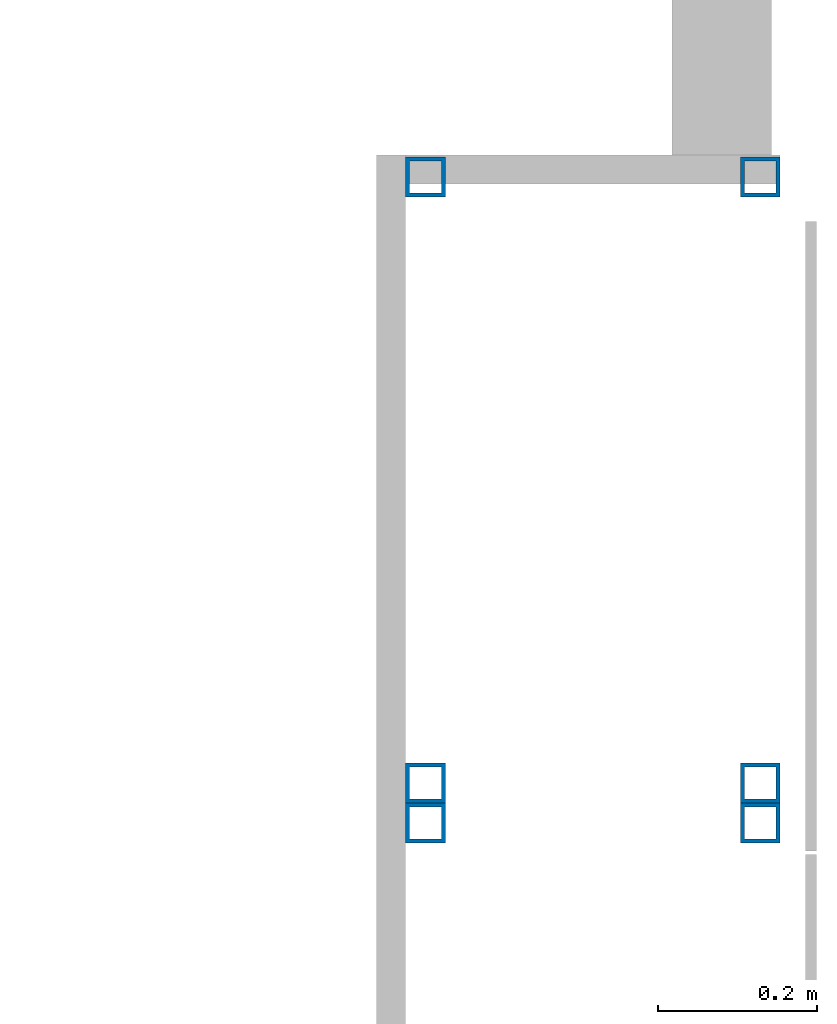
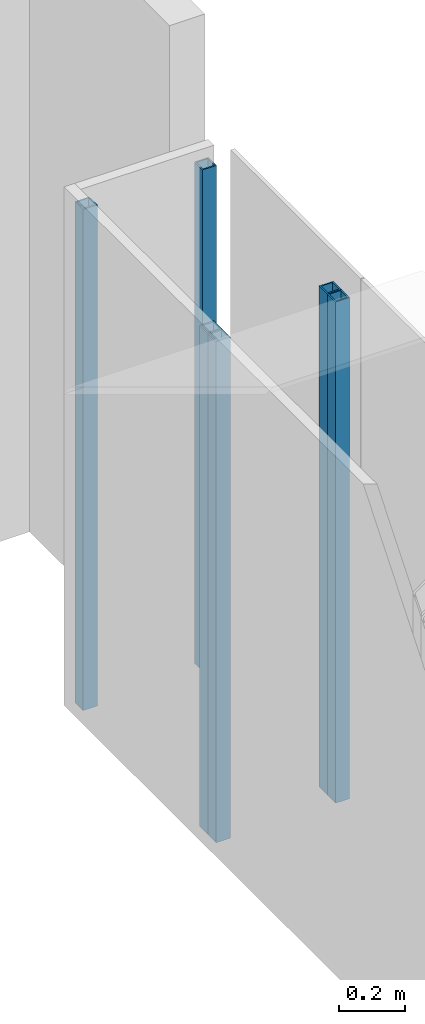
# One storey, part 6 of 11: 6 columns.
"""IFC2X3 building model written with IfcOpenShell, lengths in millimetres."""

import ifcopenshell
import ifcopenshell.guid

model = None  # the IFC model being written
_history = None  # IfcOwnerHistory: only IFC2X3 demands one
_inside = {}  # id of a spatial element -> (the spatial element, [elements in it])
_under = {}  # id of a project, library or spatial element -> (it, [spatial elements below it])
_declared = {}  # id of a project -> (the project, [libraries it declares])
_typed = {}  # id of a type object -> (the type object, [elements of that type])
_made_of = {}  # id of a material, layer set ... -> (it, [elements and type objects made of it])


def new_model(schema):
    """Start an empty IFC model of exactly this schema.

    Asked for "IFC4X3", IfcOpenShell would pick the latest addendum, in which some entities
    have other attributes; the version numbers below select the first issue.
    IFC2X3 requires an IfcOwnerHistory on every rooted entity: one is made here for all.
    """
    global model, _history
    if schema == "IFC4X3":
        model = ifcopenshell.file(schema_version=(4, 3, 0, 0))
    else:
        model = ifcopenshell.file(schema=schema)
    _inside.clear()
    _under.clear()
    _declared.clear()
    _typed.clear()
    _made_of.clear()
    _history = None
    if model.schema == "IFC2X3":
        org = make("IfcOrganization", Name="unknown")
        user = make(
            "IfcPersonAndOrganization",
            ThePerson=make("IfcPerson", FamilyName="unknown"),
            TheOrganization=org,
        )
        app = make(
            "IfcApplication",
            ApplicationDeveloper=org,
            Version="unknown",
            ApplicationFullName="unknown",
            ApplicationIdentifier="unknown",
        )
        _history = make(
            "IfcOwnerHistory",
            OwningUser=user,
            OwningApplication=app,
            ChangeAction="ADDED",
            CreationDate=0,
        )
    return model


def make(cls, **values):
    """One entity of the class cls with the attributes given. An attribute that is None is left unset."""
    return model.create_entity(
        cls, **{name: value for name, value in values.items() if value is not None}
    )


def entity(cls, *values):
    """Any entity or typed value of the class cls, its attributes in the order of the schema. None: left unset."""
    e = model.create_entity(cls)
    for i, value in enumerate(values):
        if value is not None:
            e[i] = value
    return e


def rooted(cls, **values):
    """An entity with a GlobalId (a new one), such as an element, a storey or a relation."""
    return make(cls, GlobalId=ifcopenshell.guid.new(), OwnerHistory=_history, **values)


def si_unit(unit_type, name, prefix=None):
    """IfcSIUnit, for example si_unit("LENGTHUNIT", "METRE", prefix="MILLI")."""
    return make("IfcSIUnit", UnitType=unit_type, Prefix=prefix, Name=name)


def converted_unit(unit_type, name, factor, base, dimensions=None, offset=None):
    """IfcConversionBasedUnit, such as the inch: factor (a typed value) times the base unit."""
    return make(
        "IfcConversionBasedUnit"
        if offset is None
        else "IfcConversionBasedUnitWithOffset",
        ConversionOffset=offset,
        Dimensions=None
        if dimensions is None
        else entity("IfcDimensionalExponents", *dimensions),
        UnitType=unit_type,
        Name=name,
        ConversionFactor=make(
            "IfcMeasureWithUnit", ValueComponent=factor, UnitComponent=base
        ),
    )


def derived_unit(unit_type, elements):
    """IfcDerivedUnit: a product of units, each with its exponent."""
    return make(
        "IfcDerivedUnit",
        Elements=[
            make("IfcDerivedUnitElement", Unit=unit, Exponent=power)
            for unit, power in elements
        ],
        UnitType=unit_type,
    )


def assignment(units):
    """IfcUnitAssignment: the units of a project."""
    return None if units is None else make("IfcUnitAssignment", Units=units)


def point(xyz):
    """IfcCartesianPoint."""
    return None if xyz is None else make("IfcCartesianPoint", Coordinates=xyz)


def direction(xyz):
    """IfcDirection."""
    return None if xyz is None else make("IfcDirection", DirectionRatios=xyz)


def frame(location, z_axis=None, x_axis=None):
    """IfcAxis2Placement3D, a coordinate frame: its origin and axes. An axis left out is left unset."""
    return make(
        "IfcAxis2Placement3D",
        Location=point(location),
        Axis=direction(z_axis),
        RefDirection=direction(x_axis),
    )


def origin():
    """The frame at (0, 0, 0) with its axes left unset."""
    return frame((0.0, 0.0, 0.0))


def origin_with_axes():
    """The frame at (0, 0, 0) with the z axis (0, 0, 1) and the x axis (1, 0, 0) written out."""
    return frame((0.0, 0.0, 0.0), z_axis=(0.0, 0.0, 1.0), x_axis=(1.0, 0.0, 0.0))


def place(relative_to, where):
    """IfcLocalPlacement: puts the frame where relative to a parent placement (None: the world)."""
    return make(
        "IfcLocalPlacement", PlacementRelTo=relative_to, RelativePlacement=where
    )


def context(
    kind, dimensions, precision=None, world=None, true_north=None, identifier=None
):
    """IfcGeometricRepresentationContext, for example the 3D "Model" context."""
    return make(
        "IfcGeometricRepresentationContext",
        ContextIdentifier=identifier,
        ContextType=kind,
        CoordinateSpaceDimension=dimensions,
        Precision=precision,
        WorldCoordinateSystem=world,
        TrueNorth=true_north,
    )


def subcontext(parent, identifier, kind, view, scale=None):
    """IfcGeometricRepresentationSubContext, for example "Body" below "Model"."""
    return make(
        "IfcGeometricRepresentationSubContext",
        ContextIdentifier=identifier,
        ContextType=kind,
        ParentContext=parent,
        TargetScale=scale,
        TargetView=view,
    )


def project(units=None, contexts=None):
    """IfcProject with its units and contexts."""
    return rooted(
        "IfcProject",
        Name="project",
        RepresentationContexts=contexts,
        UnitsInContext=assignment(units),
    )


def spatial(cls, under=None, at=None, **own):
    """A site, building, storey or space (cls), placed at a placement, below another one or the project."""
    s = rooted(cls, ObjectPlacement=at, **own)
    if under is not None:
        _under.setdefault(under.id(), (under, []))[1].append(s)
    return s


def polyline(points):
    """IfcPolyline through the points."""
    return make("IfcPolyline", Points=[point(p) for p in points])


def outline(outer, holes=None, kind="AREA"):
    """IfcArbitraryClosedProfileDef: a profile drawn as a closed curve; with holes, ...WithVoids."""
    if holes is None:
        return make("IfcArbitraryClosedProfileDef", ProfileType=kind, OuterCurve=outer)
    return make(
        "IfcArbitraryProfileDefWithVoids",
        ProfileType=kind,
        OuterCurve=outer,
        InnerCurves=holes,
    )


def extrude(swept, where, along, depth):
    """IfcExtrudedAreaSolid: the profile swept, set in the frame where, extruded along a direction by depth."""
    return make(
        "IfcExtrudedAreaSolid",
        SweptArea=swept,
        Position=where,
        ExtrudedDirection=direction(along),
        Depth=depth,
    )


def shape(context_of_items, identifier, shape_type, items):
    """IfcShapeRepresentation: the items that make up one representation, for example the "Body"."""
    return make(
        "IfcShapeRepresentation",
        ContextOfItems=context_of_items,
        RepresentationIdentifier=identifier,
        RepresentationType=shape_type,
        Items=items,
    )


def source(mapping_origin, context_of_items, identifier, shape_type, items):
    """IfcRepresentationMap: a shape defined once, which mapped items show again and again."""
    return make(
        "IfcRepresentationMap",
        MappingOrigin=mapping_origin,
        MappedRepresentation=shape(context_of_items, identifier, shape_type, items),
    )


def transform(
    local_origin,
    x_axis=None,
    y_axis=None,
    z_axis=None,
    scale=None,
    scale2=None,
    scale3=None,
    uniform=True,
):
    """IfcCartesianTransformationOperator3D, or its non-uniform kind. x_axis, y_axis, z_axis: its Axis1, 2, 3."""
    if uniform:
        return make(
            "IfcCartesianTransformationOperator3D",
            Axis1=direction(x_axis),
            Axis2=direction(y_axis),
            LocalOrigin=point(local_origin),
            Scale=scale,
            Axis3=direction(z_axis),
        )
    return make(
        "IfcCartesianTransformationOperator3DnonUniform",
        Axis1=direction(x_axis),
        Axis2=direction(y_axis),
        LocalOrigin=point(local_origin),
        Scale=scale,
        Axis3=direction(z_axis),
        Scale2=scale2,
        Scale3=scale3,
    )


def mapped(mapping_source, mapping_target):
    """IfcMappedItem: shows the shape of a source again, moved by a transform."""
    return make(
        "IfcMappedItem", MappingSource=mapping_source, MappingTarget=mapping_target
    )


def material(Name=None, Category=None):
    """IfcMaterial."""
    return make("IfcMaterial", Name=Name, Category=Category)


def made_of(thing, what):
    """Note that an element or type object is made of a material, layer set ...; save() writes the relation."""
    if what is not None:
        _made_of.setdefault(what.id(), (what, []))[1].append(thing)
    return thing


def type_object(cls, material=None, **own):
    """A type object (cls), such as IfcWallType, which elements share."""
    return made_of(rooted(cls, **own), material)


def element(
    cls,
    number,
    at=None,
    inside=None,
    cuts=None,
    type_object=None,
    material=None,
    context=None,
    identifier="Body",
    shape_type=None,
    held_by="IfcProductDefinitionShape",
    body=None,
    shapes=None,
    **own,
):
    """One element of the class cls, such as IfcWall. Its Tag is "e" and its number.

    at: its placement. inside: the storey or other place that contains it. cuts: it is an
    opening in that element (IfcRelVoidsElement). A single representation is given by context,
    identifier, shape_type and body (its items); several are given by shapes. held_by: the class
    of the entity that holds the representations. save() writes the other relations.
    """
    e = rooted(cls, Tag="e%d" % number, ObjectPlacement=at, **own)
    if body is not None:
        shapes = [shape(context, identifier, shape_type, body)]
    if shapes is not None:
        e.Representation = make(held_by, Representations=shapes)
    if inside is not None:
        _inside.setdefault(inside.id(), (inside, []))[1].append(e)
    if cuts is not None:
        rooted(
            "IfcRelVoidsElement", RelatingBuildingElement=cuts, RelatedOpeningElement=e
        )
    if type_object is not None:
        _typed.setdefault(type_object.id(), (type_object, []))[1].append(e)
    return made_of(e, material)


def aggregate(whole, parts):
    """IfcRelAggregates: a whole, such as a stair, and the parts it consists of."""
    return rooted("IfcRelAggregates", RelatingObject=whole, RelatedObjects=parts)


def save(model, path):
    """Write the relations noted so far, then the file.

    IfcRelAggregates (storeys below a building ...), IfcRelContainedInSpatialStructure (elements
    in a storey), IfcRelDefinesByType, IfcRelAssociatesMaterial and IfcRelDeclares: one each for
    every whole, place, type object, material and project.
    """
    for whole, parts in _under.values():
        aggregate(whole, parts)
    for where, things in _inside.values():
        rooted(
            "IfcRelContainedInSpatialStructure",
            RelatedElements=things,
            RelatingStructure=where,
        )
    for kind, things in _typed.values():
        rooted("IfcRelDefinesByType", RelatedObjects=things, RelatingType=kind)
    for what, things in _made_of.values():
        rooted("IfcRelAssociatesMaterial", RelatedObjects=things, RelatingMaterial=what)
    for by, libraries in _declared.values():
        rooted("IfcRelDeclares", RelatingContext=by, RelatedDefinitions=libraries)
    model.write(path)


model = new_model("IFC2X3")

# Units and contexts
model_context = context("Model", 3, precision=0.01, world=frame((0.0, 4.29681676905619e-09, 0.0)), true_north=direction((4.01073788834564e-13, 1.0)))
plan_context = context("Plan", 3, precision=0.01, world=frame((0.0, 4.29681676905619e-09, 0.0)), true_north=direction((4.01073788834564e-13, 1.0)))
body_context = subcontext(model_context, "Body", "Model", "MODEL_VIEW")
ifc_project = project(units=[converted_unit("PLANEANGLEUNIT", "DEGREE", entity("IfcPositiveLengthMeasure", 0.0174532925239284), si_unit("PLANEANGLEUNIT", "RADIAN"), dimensions=[0, 0, 0, 0, 0, 0, 0]), si_unit("AREAUNIT", "SQUARE_METRE"), si_unit("LENGTHUNIT", "METRE", prefix="MILLI"), si_unit("MASSUNIT", "GRAM", prefix="KILO"), si_unit("POWERUNIT", "WATT"), si_unit("PRESSUREUNIT", "PASCAL"), si_unit("FORCEUNIT", "NEWTON", prefix="KILO"), si_unit("ELECTRICVOLTAGEUNIT", "VOLT"), si_unit("ELECTRICCURRENTUNIT", "AMPERE"), si_unit("THERMODYNAMICTEMPERATUREUNIT", "DEGREE_CELSIUS"), si_unit("TIMEUNIT", "SECOND"), si_unit("VOLUMEUNIT", "CUBIC_METRE"), derived_unit("LINEARVELOCITYUNIT", [(si_unit("LENGTHUNIT", "METRE"), 1), (si_unit("TIMEUNIT", "SECOND"), -1)]), derived_unit("VOLUMETRICFLOWRATEUNIT", [(si_unit("VOLUMEUNIT", "CUBIC_METRE"), 1), (si_unit("TIMEUNIT", "SECOND"), -1)]), derived_unit("THERMALTRANSMITTANCEUNIT", [(si_unit("POWERUNIT", "WATT"), 1), (si_unit("THERMODYNAMICTEMPERATUREUNIT", "KELVIN"), -1), (si_unit("AREAUNIT", "SQUARE_METRE"), -1)]), derived_unit("SOUNDPRESSUREUNIT", [(si_unit("PRESSUREUNIT", "PASCAL"), 1)])], contexts=[model_context, plan_context])

# Site, building, storey
site_placement = place(None, origin_with_axes())
site = spatial("IfcSite", under=ifc_project, at=site_placement, Name="ENGM", CompositionType="ELEMENT")
building_placement = place(site_placement, origin_with_axes())
building = spatial("IfcBuilding", under=site, at=building_placement, Name="TH", CompositionType="ELEMENT")
storey_placement = place(building_placement, frame((0.0, 0.0, 210900.0), z_axis=(0.0, 0.0, 1.0), x_axis=(1.0, 0.0, 0.0)))
storey = spatial("IfcBuildingStorey", under=building, at=storey_placement, Name="Nivå F", CompositionType="ELEMENT", Elevation=210900.0)

# Columns
ifc_material = material(Name="_NSW Stål")
column_type = type_object("IfcColumnType", Name="B222 - HUP7:B222 - HUP 50x50x5", PredefinedType="COLUMN", material=ifc_material)
shared_shape = source(origin(), body_context, "Body", "SweptSolid", [
    extrude(outline(polyline([(-25.0, -25.0), (25.0, -25.0), (25.0, 25.0), (-25.0, 25.0), (-25.0, -25.0)]), holes=[polyline([(-20.0, -20.0), (-20.0, 20.0), (20.0, 20.0), (20.0, -20.0), (-20.0, -20.0)])]), frame((0.0, 0.0, 210900.0), z_axis=(0.0, 0.0, 1.0), x_axis=(-1.0, 0.0, 0.0)), (0.0, 0.0, 1.0), 1864.99999999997),
])
for number, where, z_axis, x_axis in (
    (1, (909920.000000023, 486352.300951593, -210900.0), (0.0, 0.0, 1.0), (0.0, 1.0, 0.0)),
    (2, (910340.000000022, 486352.300951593, -210900.0), (0.0, 0.0, 1.0), (0.0, 1.0, 0.0)),
    (3, (909920.000000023, 485541.69464403, -210900.0), (0.0, 0.0, 1.0), (0.0, 1.0, 0.0)),
    (4, (910340.000000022, 485541.69464403, -210900.0), (0.0, 0.0, 1.0), (0.0, 1.0, 0.0)),
    (5, (909920.000000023, 485591.694644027, -210900.0), (0.0, 0.0, 1.0), (0.0, 1.0, 0.0)),
    (6, (910340.000000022, 485591.694644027, -210900.0), (0.0, 0.0, 1.0), (0.0, 1.0, 0.0)),
):
    element("IfcColumn", number, at=place(storey_placement, frame(where, z_axis=z_axis, x_axis=x_axis)), inside=storey, type_object=column_type, material=ifc_material, Name="B222 - HUP7:B222 - HUP 50x50x5", ObjectType="B222 - HUP7:B222 - HUP 50x50x5", context=body_context, shape_type="MappedRepresentation", body=[
        mapped(shared_shape, transform((0.0, 0.0, 0.0), scale=1.0)),
    ])

save(model, "model.ifc")
